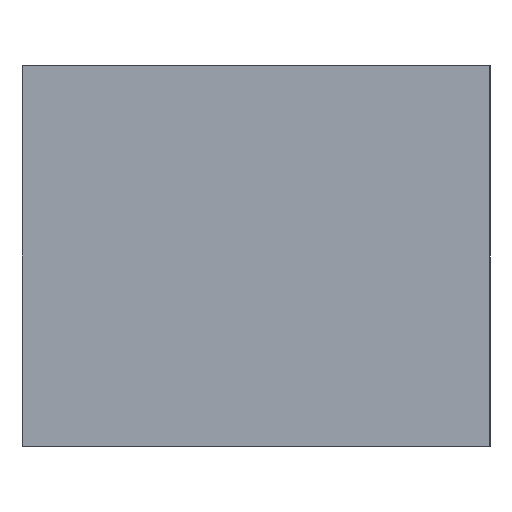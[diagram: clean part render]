
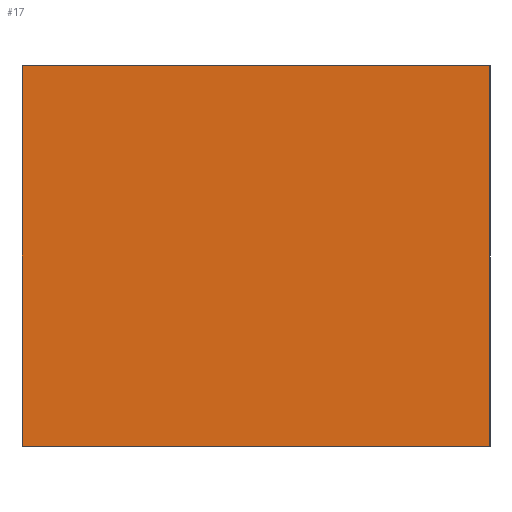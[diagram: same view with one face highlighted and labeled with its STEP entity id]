
A CAD part, left-side view. The second image highlights one B-rep face of the part: STEP entity #17.
In plain terms, the highlighted planar face has unit normal (-1, 0, 0).
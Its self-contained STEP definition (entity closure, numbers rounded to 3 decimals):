
#17 = ADVANCED_FACE('',(#18),#32,.F.);
#18 = FACE_BOUND('',#19,.F.);
#19 = EDGE_LOOP('',(#20,#55,#83,#111));
#20 = ORIENTED_EDGE('',*,*,#21,.F.);
#21 = EDGE_CURVE('',#22,#24,#26,.T.);
#22 = VERTEX_POINT('',#23);
#23 = CARTESIAN_POINT('',(-190.,-211.,136.));
#24 = VERTEX_POINT('',#25);
#25 = CARTESIAN_POINT('',(-190.,-211.,149.));
#26 = SURFACE_CURVE('',#27,(#31,#43),.PCURVE_S1.);
#27 = LINE('',#28,#29);
#28 = CARTESIAN_POINT('',(-190.,-211.,136.));
#29 = VECTOR('',#30,1.);
#30 = DIRECTION('',(0.,0.,1.));
#31 = PCURVE('',#32,#37);
#32 = PLANE('',#33);
#33 = AXIS2_PLACEMENT_3D('',#34,#35,#36);
#34 = CARTESIAN_POINT('',(-190.,-211.,136.));
#35 = DIRECTION('',(1.,0.,-0.));
#36 = DIRECTION('',(0.,0.,1.));
#37 = DEFINITIONAL_REPRESENTATION('',(#38),#42);
#38 = LINE('',#39,#40);
#39 = CARTESIAN_POINT('',(0.,0.));
#40 = VECTOR('',#41,1.);
#41 = DIRECTION('',(1.,0.));
#42 = ( GEOMETRIC_REPRESENTATION_CONTEXT(2) 
PARAMETRIC_REPRESENTATION_CONTEXT() REPRESENTATION_CONTEXT('2D SPACE',''
  ) );
#43 = PCURVE('',#44,#49);
#44 = PLANE('',#45);
#45 = AXIS2_PLACEMENT_3D('',#46,#47,#48);
#46 = CARTESIAN_POINT('',(-190.,-211.,136.));
#47 = DIRECTION('',(-0.,1.,0.));
#48 = DIRECTION('',(0.,0.,1.));
#49 = DEFINITIONAL_REPRESENTATION('',(#50),#54);
#50 = LINE('',#51,#52);
#51 = CARTESIAN_POINT('',(0.,0.));
#52 = VECTOR('',#53,1.);
#53 = DIRECTION('',(1.,0.));
#54 = ( GEOMETRIC_REPRESENTATION_CONTEXT(2) 
PARAMETRIC_REPRESENTATION_CONTEXT() REPRESENTATION_CONTEXT('2D SPACE',''
  ) );
#55 = ORIENTED_EDGE('',*,*,#56,.T.);
#56 = EDGE_CURVE('',#22,#57,#59,.T.);
#57 = VERTEX_POINT('',#58);
#58 = CARTESIAN_POINT('',(-190.,-195.,136.));
#59 = SURFACE_CURVE('',#60,(#64,#71),.PCURVE_S1.);
#60 = LINE('',#61,#62);
#61 = CARTESIAN_POINT('',(-190.,-211.,136.));
#62 = VECTOR('',#63,1.);
#63 = DIRECTION('',(-0.,1.,0.));
#64 = PCURVE('',#32,#65);
#65 = DEFINITIONAL_REPRESENTATION('',(#66),#70);
#66 = LINE('',#67,#68);
#67 = CARTESIAN_POINT('',(0.,0.));
#68 = VECTOR('',#69,1.);
#69 = DIRECTION('',(0.,-1.));
#70 = ( GEOMETRIC_REPRESENTATION_CONTEXT(2) 
PARAMETRIC_REPRESENTATION_CONTEXT() REPRESENTATION_CONTEXT('2D SPACE',''
  ) );
#71 = PCURVE('',#72,#77);
#72 = PLANE('',#73);
#73 = AXIS2_PLACEMENT_3D('',#74,#75,#76);
#74 = CARTESIAN_POINT('',(-190.,-211.,136.));
#75 = DIRECTION('',(0.,0.,1.));
#76 = DIRECTION('',(1.,0.,-0.));
#77 = DEFINITIONAL_REPRESENTATION('',(#78),#82);
#78 = LINE('',#79,#80);
#79 = CARTESIAN_POINT('',(0.,0.));
#80 = VECTOR('',#81,1.);
#81 = DIRECTION('',(0.,1.));
#82 = ( GEOMETRIC_REPRESENTATION_CONTEXT(2) 
PARAMETRIC_REPRESENTATION_CONTEXT() REPRESENTATION_CONTEXT('2D SPACE',''
  ) );
#83 = ORIENTED_EDGE('',*,*,#84,.T.);
#84 = EDGE_CURVE('',#57,#85,#87,.T.);
#85 = VERTEX_POINT('',#86);
#86 = CARTESIAN_POINT('',(-190.,-195.,149.));
#87 = SURFACE_CURVE('',#88,(#92,#99),.PCURVE_S1.);
#88 = LINE('',#89,#90);
#89 = CARTESIAN_POINT('',(-190.,-195.,136.));
#90 = VECTOR('',#91,1.);
#91 = DIRECTION('',(0.,0.,1.));
#92 = PCURVE('',#32,#93);
#93 = DEFINITIONAL_REPRESENTATION('',(#94),#98);
#94 = LINE('',#95,#96);
#95 = CARTESIAN_POINT('',(0.,-16.));
#96 = VECTOR('',#97,1.);
#97 = DIRECTION('',(1.,0.));
#98 = ( GEOMETRIC_REPRESENTATION_CONTEXT(2) 
PARAMETRIC_REPRESENTATION_CONTEXT() REPRESENTATION_CONTEXT('2D SPACE',''
  ) );
#99 = PCURVE('',#100,#105);
#100 = PLANE('',#101);
#101 = AXIS2_PLACEMENT_3D('',#102,#103,#104);
#102 = CARTESIAN_POINT('',(-190.,-195.,136.));
#103 = DIRECTION('',(-0.,1.,0.));
#104 = DIRECTION('',(0.,0.,1.));
#105 = DEFINITIONAL_REPRESENTATION('',(#106),#110);
#106 = LINE('',#107,#108);
#107 = CARTESIAN_POINT('',(0.,0.));
#108 = VECTOR('',#109,1.);
#109 = DIRECTION('',(1.,0.));
#110 = ( GEOMETRIC_REPRESENTATION_CONTEXT(2) 
PARAMETRIC_REPRESENTATION_CONTEXT() REPRESENTATION_CONTEXT('2D SPACE',''
  ) );
#111 = ORIENTED_EDGE('',*,*,#112,.F.);
#112 = EDGE_CURVE('',#24,#85,#113,.T.);
#113 = SURFACE_CURVE('',#114,(#118,#125),.PCURVE_S1.);
#114 = LINE('',#115,#116);
#115 = CARTESIAN_POINT('',(-190.,-211.,149.));
#116 = VECTOR('',#117,1.);
#117 = DIRECTION('',(-0.,1.,0.));
#118 = PCURVE('',#32,#119);
#119 = DEFINITIONAL_REPRESENTATION('',(#120),#124);
#120 = LINE('',#121,#122);
#121 = CARTESIAN_POINT('',(13.,0.));
#122 = VECTOR('',#123,1.);
#123 = DIRECTION('',(0.,-1.));
#124 = ( GEOMETRIC_REPRESENTATION_CONTEXT(2) 
PARAMETRIC_REPRESENTATION_CONTEXT() REPRESENTATION_CONTEXT('2D SPACE',''
  ) );
#125 = PCURVE('',#126,#131);
#126 = PLANE('',#127);
#127 = AXIS2_PLACEMENT_3D('',#128,#129,#130);
#128 = CARTESIAN_POINT('',(-190.,-211.,149.));
#129 = DIRECTION('',(0.,0.,1.));
#130 = DIRECTION('',(1.,0.,-0.));
#131 = DEFINITIONAL_REPRESENTATION('',(#132),#136);
#132 = LINE('',#133,#134);
#133 = CARTESIAN_POINT('',(0.,0.));
#134 = VECTOR('',#135,1.);
#135 = DIRECTION('',(0.,1.));
#136 = ( GEOMETRIC_REPRESENTATION_CONTEXT(2) 
PARAMETRIC_REPRESENTATION_CONTEXT() REPRESENTATION_CONTEXT('2D SPACE',''
  ) );
